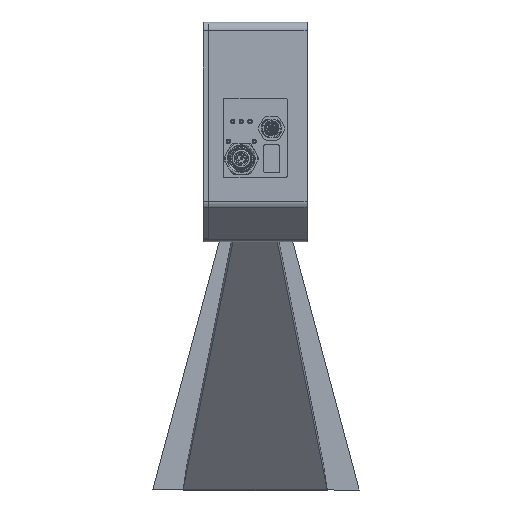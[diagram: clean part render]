
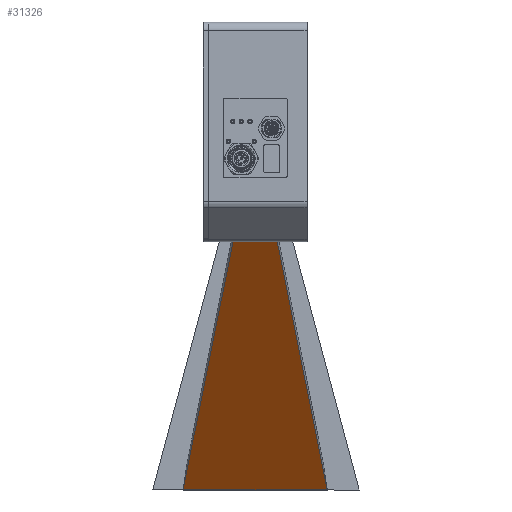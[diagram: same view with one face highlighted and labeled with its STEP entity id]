
A CAD part, left-side view. The second image highlights one B-rep face of the part: STEP entity #31326.
In plain terms, the highlighted planar face has unit normal (-0.78, 0, -0.626) as drawn and (0.005, -1, 0) by its records, which use the part's own axes.
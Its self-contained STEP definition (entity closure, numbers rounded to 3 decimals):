
#1717=PLANE('',#34956);
#4676=FACE_OUTER_BOUND('',#6847,.T.);
#6847=EDGE_LOOP('',(#28823,#28824,#28825,#28826));
#9069=LINE('',#89825,#11301);
#9072=LINE('',#89831,#11304);
#9076=LINE('',#89852,#11308);
#9077=LINE('',#89854,#11309);
#11301=VECTOR('',#43702,10.);
#11304=VECTOR('',#43707,10.);
#11308=VECTOR('',#43713,10.);
#11309=VECTOR('',#43716,228.026);
#15749=VERTEX_POINT('',#89822);
#15750=VERTEX_POINT('',#89824);
#15751=VERTEX_POINT('',#89828);
#15752=VERTEX_POINT('',#89830);
#20105=EDGE_CURVE('',#15749,#15750,#9069,.T.);
#20108=EDGE_CURVE('',#15752,#15751,#9072,.T.);
#20112=EDGE_CURVE('',#15752,#15749,#9076,.T.);
#20113=EDGE_CURVE('',#15751,#15750,#9077,.T.);
#28823=ORIENTED_EDGE('',*,*,#20108,.T.);
#28824=ORIENTED_EDGE('',*,*,#20113,.T.);
#28825=ORIENTED_EDGE('',*,*,#20105,.F.);
#28826=ORIENTED_EDGE('',*,*,#20112,.F.);
#31326=ADVANCED_FACE('',(#4676),#1717,.T.);
#34956=AXIS2_PLACEMENT_3D('',#89853,#43714,#43715);
#43702=DIRECTION('',(0.,0.,-1.));
#43707=DIRECTION('',(0.,0.,-1.));
#43713=DIRECTION('',(0.988,0.005,-0.155));
#43714=DIRECTION('center_axis',(0.005,-1.,
0.));
#43715=DIRECTION('ref_axis',(0.,0.,-1.));
#43716=DIRECTION('',(0.988,0.005,0.155));
#89822=CARTESIAN_POINT('',(0.,-4.,6.344));
#89824=CARTESIAN_POINT('',(0.,-4.,-6.344));
#89825=CARTESIAN_POINT('',(0.,-4.,-6.344));
#89828=CARTESIAN_POINT('',(-225.275,-5.035,-41.643));
#89830=CARTESIAN_POINT('',(-225.275,-5.035,41.643));
#89831=CARTESIAN_POINT('',(-225.275,-5.035,41.643));
#89852=CARTESIAN_POINT('',(-225.275,-5.035,41.643));
#89853=CARTESIAN_POINT('Origin',(-225.275,-5.035,41.643));
#89854=CARTESIAN_POINT('',(-225.275,-5.035,-41.643));
